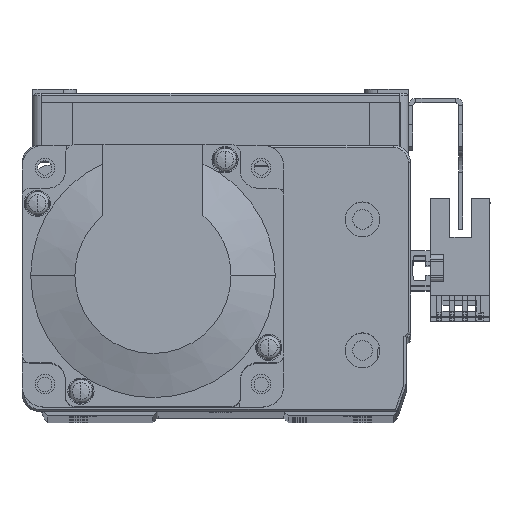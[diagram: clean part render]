
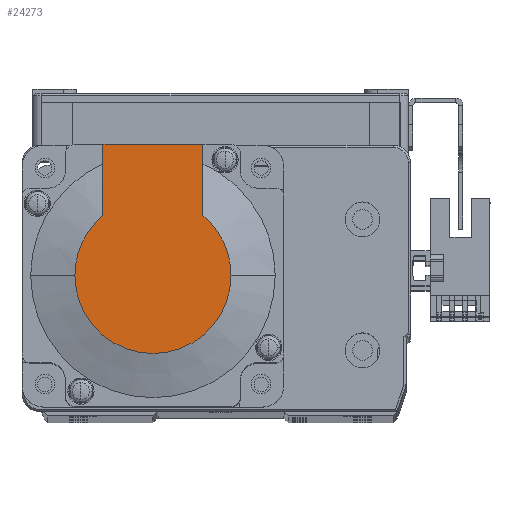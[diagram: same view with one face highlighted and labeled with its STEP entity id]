
A CAD part, top view. The second image highlights one B-rep face of the part: STEP entity #24273.
In plain terms, the highlighted planar face has unit normal (0, 0, 1) as drawn and (-1, 0, 0) by its records, which use the part's own axes.
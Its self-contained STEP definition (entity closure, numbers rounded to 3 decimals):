
#14829 = EDGE_CURVE ( 'NONE', #35651, #35745, #47834, .T. ) ;
#14877 = EDGE_CURVE ( 'NONE', #35745, #35681, #47960, .T. ) ;
#15214 = EDGE_CURVE ( 'NONE', #28006, #35651, #48344, .T. ) ;
#15275 = EDGE_CURVE ( 'NONE', #27999, #27971, #48333, .T. ) ;
#15290 = EDGE_CURVE ( 'NONE', #27971, #35681, #48412, .T. ) ;
#15449 = EDGE_CURVE ( 'NONE', #27999, #28006, #48491, .T. ) ;
#22875 = CARTESIAN_POINT ( 'NONE',  ( -99., 30., 11.45 ) ) ;
#22877 = CARTESIAN_POINT ( 'NONE',  ( -99., 30., -11.45 ) ) ;
#22879 = CARTESIAN_POINT ( 'NONE',  ( -99., 13.735, -11.45 ) ) ;
#23468 = CARTESIAN_POINT ( 'NONE',  ( -99., 0., -17.881 ) ) ;
#23476 = CARTESIAN_POINT ( 'NONE',  ( -99., 13.735, 11.45 ) ) ;
#23513 = CARTESIAN_POINT ( 'NONE',  ( -99., 0., 17.881 ) ) ;
#24273 = ADVANCED_FACE ( 'NONE', ( #39600 ), #33550, .T. ) ;
#26310 = CARTESIAN_POINT ( 'NONE',  ( -99., 0., 0. ) ) ;
#26322 = DIRECTION ( 'NONE',  ( 0., 0., -1. ) ) ;
#26339 = DIRECTION ( 'NONE',  ( -1., 0., 0. ) ) ;
#26370 = CARTESIAN_POINT ( 'NONE',  ( -99., 0., 0. ) ) ;
#26371 = DIRECTION ( 'NONE',  ( -1., 0., 0. ) ) ;
#26378 = DIRECTION ( 'NONE',  ( 0., 0., -1. ) ) ;
#27971 = VERTEX_POINT ( 'NONE', #22875 ) ;
#27999 = VERTEX_POINT ( 'NONE', #22877 ) ;
#28006 = VERTEX_POINT ( 'NONE', #22879 ) ;
#31474 = AXIS2_PLACEMENT_3D ( 'NONE', #33542, #33551, #33571 ) ;
#33542 = CARTESIAN_POINT ( 'NONE',  ( -99., -8.941, 0. ) ) ;
#33550 = PLANE ( 'NONE',  #31474 ) ;
#33551 = DIRECTION ( 'NONE',  ( -1., 0., 0. ) ) ;
#33571 = DIRECTION ( 'NONE',  ( 0., 0., 1. ) ) ;
#35651 = VERTEX_POINT ( 'NONE', #23468 ) ;
#35681 = VERTEX_POINT ( 'NONE', #23476 ) ;
#35745 = VERTEX_POINT ( 'NONE', #23513 ) ;
#37706 = EDGE_LOOP ( 'NONE', ( #43627, #43591, #43622, #43650, #43682, #43613 ) ) ;
#39600 = FACE_OUTER_BOUND ( 'NONE', #37706, .T. ) ;
#41501 = AXIS2_PLACEMENT_3D ( 'NONE', #26370, #26371, #26378 ) ;
#41576 = AXIS2_PLACEMENT_3D ( 'NONE', #26310, #26339, #26322 ) ;
#41640 = AXIS2_PLACEMENT_3D ( 'NONE', #46395, #46384, #46368 ) ;
#43591 = ORIENTED_EDGE ( 'NONE', *, *, #15214, .T. ) ;
#43613 = ORIENTED_EDGE ( 'NONE', *, *, #15275, .F. ) ;
#43622 = ORIENTED_EDGE ( 'NONE', *, *, #14829, .T. ) ;
#43627 = ORIENTED_EDGE ( 'NONE', *, *, #15449, .T. ) ;
#43650 = ORIENTED_EDGE ( 'NONE', *, *, #14877, .T. ) ;
#43682 = ORIENTED_EDGE ( 'NONE', *, *, #15290, .F. ) ;
#46368 = DIRECTION ( 'NONE',  ( 0., 0., -1. ) ) ;
#46384 = DIRECTION ( 'NONE',  ( -1., 0., 0. ) ) ;
#46395 = CARTESIAN_POINT ( 'NONE',  ( -99., 0., 0. ) ) ;
#46423 = DIRECTION ( 'NONE',  ( 0., 0., 1. ) ) ;
#46430 = CARTESIAN_POINT ( 'NONE',  ( -99., 30., 25. ) ) ;
#46449 = DIRECTION ( 'NONE',  ( 0., -1., 0. ) ) ;
#46470 = CARTESIAN_POINT ( 'NONE',  ( -99., 0., 11.45 ) ) ;
#46611 = CARTESIAN_POINT ( 'NONE',  ( -99., -8.941, -11.45 ) ) ;
#46626 = DIRECTION ( 'NONE',  ( 0., -1., 0. ) ) ;
#47834 = CIRCLE ( 'NONE', #41576, 17.881 ) ;
#47960 = CIRCLE ( 'NONE', #41501, 17.881 ) ;
#48316 = VECTOR ( 'NONE', #46423, 1000. ) ;
#48333 = LINE ( 'NONE', #46430, #48316 ) ;
#48344 = CIRCLE ( 'NONE', #41640, 17.881 ) ;
#48385 = VECTOR ( 'NONE', #46449, 1000. ) ;
#48412 = LINE ( 'NONE', #46470, #48385 ) ;
#48484 = VECTOR ( 'NONE', #46626, 1000. ) ;
#48491 = LINE ( 'NONE', #46611, #48484 ) ;
